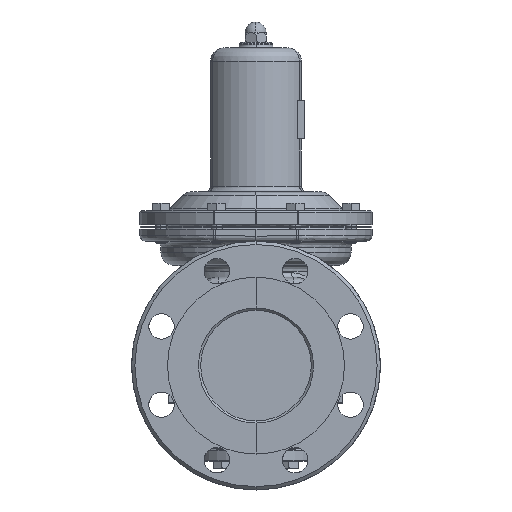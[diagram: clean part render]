
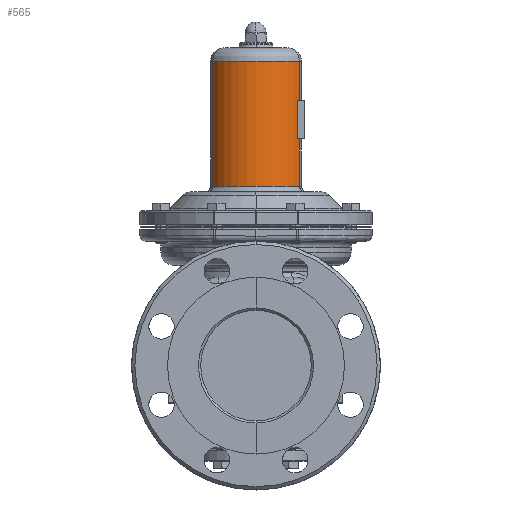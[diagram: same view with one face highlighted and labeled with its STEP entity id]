
A CAD part, left-side view. The second image highlights one B-rep face of the part: STEP entity #565.
In plain terms, the highlighted cylindrical face has radius 46 mm (diameter 92 mm), a partial arc.
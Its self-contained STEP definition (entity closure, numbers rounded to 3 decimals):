
#565=ADVANCED_FACE('',(#2455),#2454,.T.);
#2454=CYLINDRICAL_SURFACE('',#8806,46.);
#2455=FACE_OUTER_BOUND('',#8807,.T.);
#8803=CARTESIAN_POINT('',(0.,0.,0.));
#8804=DIRECTION('',(0.,0.,1.));
#8805=DIRECTION('',(1.,0.,0.));
#8806=AXIS2_PLACEMENT_3D('',#8803,#8804,#8805);
#8807=EDGE_LOOP('',(#16944,#16945,#16946,#16947,#16948,#16949,#16950,#16951));
#16944=ORIENTED_EDGE('',*,*,#19993,.F.);
#16945=ORIENTED_EDGE('',*,*,#19991,.F.);
#16946=ORIENTED_EDGE('',*,*,#19986,.F.);
#16947=ORIENTED_EDGE('',*,*,#19944,.T.);
#16948=ORIENTED_EDGE('',*,*,#19946,.T.);
#16949=ORIENTED_EDGE('',*,*,#19930,.T.);
#16950=ORIENTED_EDGE('',*,*,#19918,.T.);
#16951=ORIENTED_EDGE('',*,*,#19912,.T.);
#19912=EDGE_CURVE('',#23203,#23196,#23204,.T.);
#19918=EDGE_CURVE('',#23216,#23203,#23241,.T.);
#19930=EDGE_CURVE('',#23304,#23216,#23317,.T.);
#19944=EDGE_CURVE('',#23402,#23382,#23409,.T.);
#19946=EDGE_CURVE('',#23382,#23304,#23421,.T.);
#19986=EDGE_CURVE('',#23402,#23678,#23679,.T.);
#19991=EDGE_CURVE('',#23678,#23711,#23712,.T.);
#19993=EDGE_CURVE('',#23711,#23196,#23724,.T.);
#23196=VERTEX_POINT('',#33516);
#23203=VERTEX_POINT('',#33521);
#23204=LINE('',#33522,#33523);
#23216=VERTEX_POINT('',#33529);
#23241=CIRCLE('',#33549,46.);
#23304=VERTEX_POINT('',#33589);
#23317=LINE('',#33598,#33599);
#23382=VERTEX_POINT('',#33640);
#23402=VERTEX_POINT('',#33654);
#23409=LINE('',#33659,#33660);
#23421=CIRCLE('',#33669,46.);
#23678=VERTEX_POINT('',#33834);
#23679=CIRCLE('',#33838,46.);
#23711=VERTEX_POINT('',#33853);
#23712=LINE('',#33854,#33855);
#23724=CIRCLE('',#33863,46.);
#33516=CARTESIAN_POINT('',(-24.012,-39.235,78.75));
#33521=CARTESIAN_POINT('',(-24.012,-39.235,36.));
#33522=CARTESIAN_POINT('',(-24.012,-39.235,36.));
#33523=VECTOR('',#33524,42.75);
#33524=DIRECTION('',(0.,0.,1.));
#33529=CARTESIAN_POINT('',(-24.012,39.235,36.));
#33546=CARTESIAN_POINT('',(0.,0.,36.));
#33547=DIRECTION('',(0.,0.,1.));
#33548=DIRECTION('',(-0.522,0.853,0.));
#33549=AXIS2_PLACEMENT_3D('',#33546,#33547,#33548);
#33589=CARTESIAN_POINT('',(-24.012,39.235,149.));
#33598=CARTESIAN_POINT('',(-24.012,39.235,149.));
#33599=VECTOR('',#33600,113.);
#33600=DIRECTION('',(0.,0.,-1.));
#33640=CARTESIAN_POINT('',(-24.012,-39.235,149.));
#33654=CARTESIAN_POINT('',(-24.012,-39.235,113.25));
#33659=CARTESIAN_POINT('',(-24.012,-39.235,113.25));
#33660=VECTOR('',#33661,35.75);
#33661=DIRECTION('',(0.,0.,1.));
#33666=CARTESIAN_POINT('',(0.,0.,149.));
#33667=DIRECTION('',(0.,0.,-1.));
#33668=DIRECTION('',(-0.522,0.853,0.));
#33669=AXIS2_PLACEMENT_3D('',#33666,#33667,#33668);
#33834=CARTESIAN_POINT('',(-26.5,-37.6,113.25));
#33835=CARTESIAN_POINT('',(0.,0.,113.25));
#33836=DIRECTION('',(0.,0.,-1.));
#33837=DIRECTION('',(-1.,0.,0.));
#33838=AXIS2_PLACEMENT_3D('',#33835,#33836,#33837);
#33853=CARTESIAN_POINT('',(-26.5,-37.6,78.75));
#33854=CARTESIAN_POINT('',(-26.5,-37.6,113.25));
#33855=VECTOR('',#33856,34.5);
#33856=DIRECTION('',(0.,0.,-1.));
#33860=CARTESIAN_POINT('',(0.,0.,78.75));
#33861=DIRECTION('',(0.,0.,1.));
#33862=DIRECTION('',(1.,0.,0.));
#33863=AXIS2_PLACEMENT_3D('',#33860,#33861,#33862);
